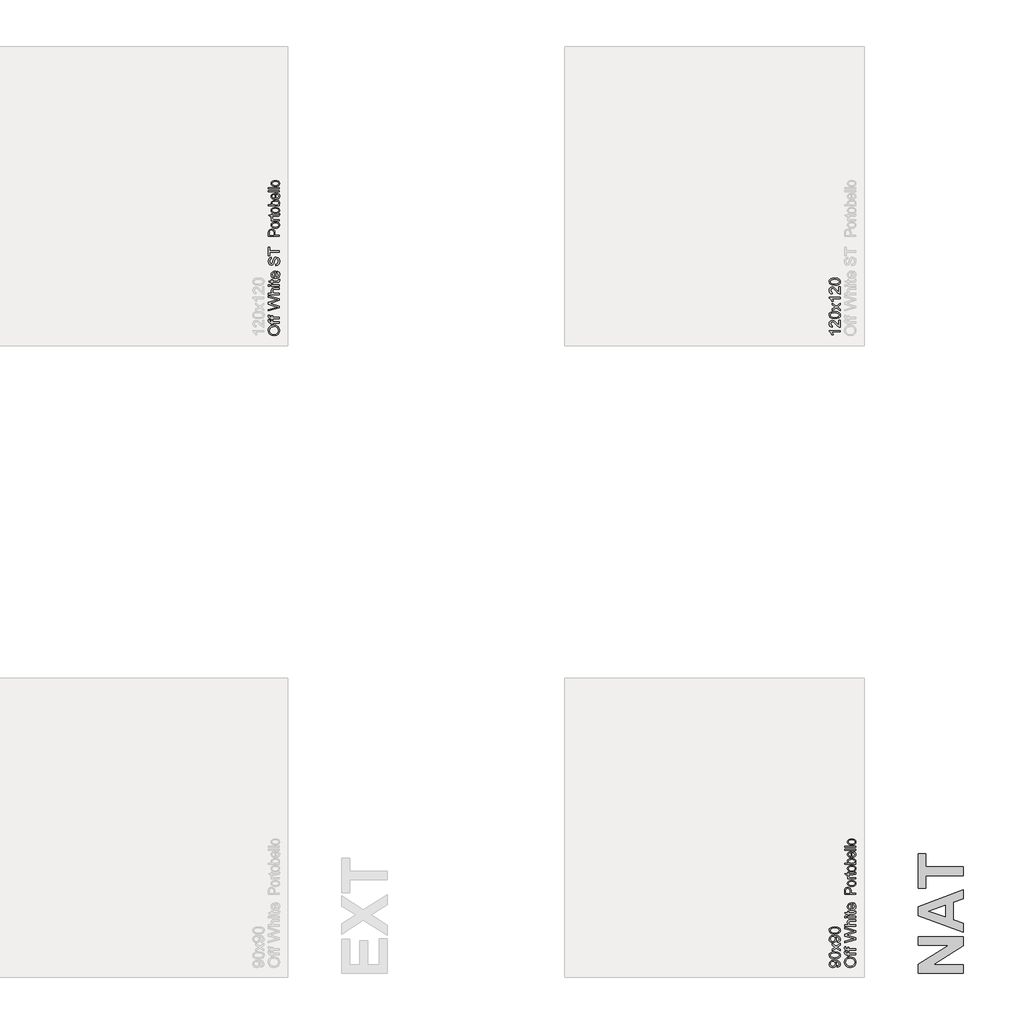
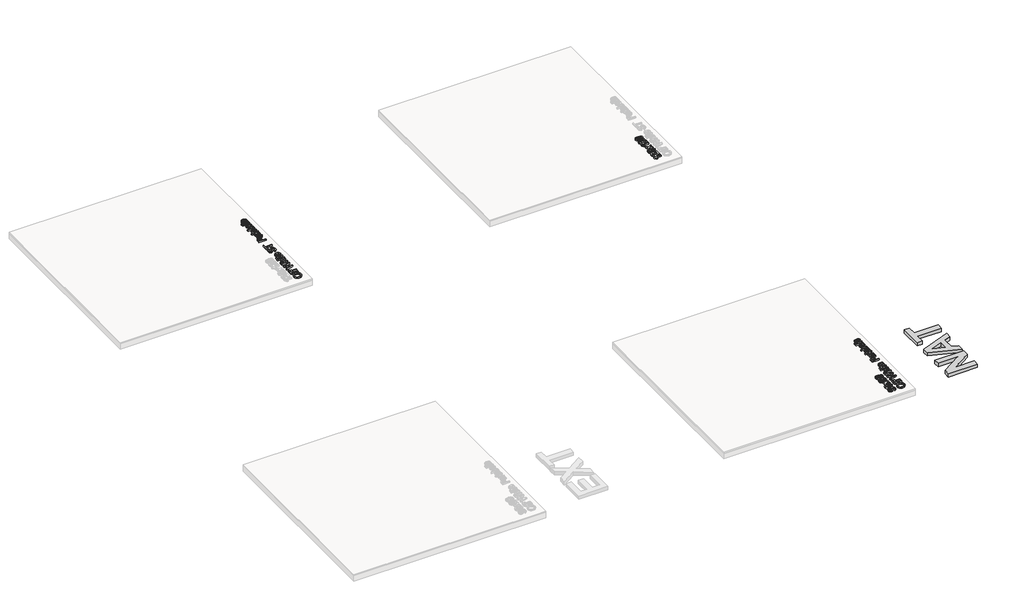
# One storey, part 6 of 19: 7 proxies.
"""IFC4 building model written with IfcOpenShell, lengths in millimetres."""

from ifc_helpers import new_model, si_unit, frame, origin, origin_with_axes, place, context, project, spatial, polyline, outline, extrude, element, save

model = new_model("IFC4")

# Units and contexts
model_context = context("Model", 3, world=origin())
ifc_project = project(units=[si_unit("LENGTHUNIT", "METRE", prefix="MILLI")], contexts=[model_context])

# Site, building, storey
site = spatial("IfcSite", under=ifc_project)
building = spatial("IfcBuilding", under=site)
storey = spatial("IfcBuildingStorey", under=building, Name="PORTOBELLO - SHOWROOM", Elevation=0.0)

# Proxies
placement = place(None, origin())
element("IfcBuildingElementProxy", 1, Name="10mm Arial", ObjectType="10mm Arial", at=placement, inside=storey, context=model_context, shape_type="SweptSolid", body=[
    extrude(outline(polyline([(11482.3367439, -7006.5341901), (11460.1228028, -7003.186464), (11443.316727, -6993.1432855), (11432.7401196, -6977.8087377), (11429.2145838, -6958.5869034), (11430.8700528, -6945.4105966), (11435.8364597, -6933.5954532), (11443.7643167, -6923.7852667), (11454.3041359, -6916.6238305), (11466.9470138, -6912.2460348), (11481.184047, -6910.7867695), (11495.6111526, -6912.3226769), (11508.4318401, -6916.9303988), (11518.9900534, -6924.3554838), (11526.6297361, -6934.34348), (11531.2650493, -6946.0574558), (11532.8101537, -6958.6604798), (11531.1025681, -6972.0391217), (11525.9798113, -6983.9217102), (11517.9048015, -6993.7073712), (11507.3404569, -7000.795231), (11482.3367439, -7006.5341901)]), holes=[polyline([(11482.4593712, -6993.9771514), (11498.1740638, -6991.4663568), (11510.1486227, -6983.9339729), (11517.7269918, -6972.6124045), (11520.2531149, -6958.7340562), (11517.7024664, -6944.6533729), (11510.0505209, -6933.3134104), (11497.7080799, -6925.8362088), (11481.0859451, -6923.3438083), (11460.3619261, -6927.6112394), (11446.6399276, -6940.0824391), (11441.7716226, -6958.513327), (11444.1168703, -6972.0207276), (11451.1526135, -6983.5047772), (11463.6697983, -6991.3590578), (11482.4593712, -6993.9771514)])]), frame((0.0, 0.0, 18.0), z_axis=(0.0, 0.0, 1.0), x_axis=(1.0, 0.0, 0.0)), (0.0, 0.0, 1.0), 20.0),
    extrude(outline(polyline([(11531.2405238, -6851.1408354), (11470.0249598, -6851.1408354), (11470.0249598, -6862.1282443), (11457.467921, -6862.1282443), (11457.467921, -6851.1408354), (11450.0367047, -6851.1408354), (11439.5643306, -6849.8164602), (11432.0840634, -6843.390788), (11429.2145838, -6830.7356474), (11430.5880099, -6819.2822546), (11442.3602338, -6821.1216646), (11441.7716226, -6828.3566771), (11443.8562872, -6836.26614), (11451.63086, -6838.5837966), (11457.467921, -6838.5837966), (11457.467921, -6824.457128), (11470.0249598, -6824.457128), (11470.0249598, -6838.5837966), (11531.2405238, -6838.5837966), (11531.2405238, -6851.1408354)])), frame((0.0, 0.0, 18.0), z_axis=(0.0, 0.0, 1.0), x_axis=(1.0, 0.0, 0.0)), (0.0, 0.0, 1.0), 20.0),
    extrude(outline(polyline([(11531.2405238, -6891.9512114), (11470.0249598, -6891.9512114), (11470.0249598, -6902.9386203), (11457.467921, -6902.9386203), (11457.467921, -6891.9512114), (11450.0367047, -6891.9512114), (11439.5643306, -6890.6268362), (11432.0840634, -6884.201164), (11429.2145838, -6871.5460234), (11430.5880099, -6860.0926306), (11442.3602338, -6861.9320406), (11441.7716226, -6869.1670531), (11443.8562872, -6877.076516), (11451.63086, -6879.3941726), (11457.467921, -6879.3941726), (11457.467921, -6865.267504), (11470.0249598, -6865.267504), (11470.0249598, -6879.3941726), (11531.2405238, -6879.3941726), (11531.2405238, -6891.9512114)])), frame((0.0, 0.0, 18.0), z_axis=(0.0, 0.0, 1.0), x_axis=(1.0, 0.0, 0.0)), (0.0, 0.0, 1.0), 20.0),
    extrude(outline(polyline([(11531.2405238, -6754.6821762), (11430.7842137, -6782.0771221), (11430.7842137, -6769.1276759), (11496.8067691, -6753.2351737), (11517.1874316, -6748.3300805), (11499.1612138, -6743.0816307), (11430.7842137, -6723.166952), (11430.7842137, -6704.5030721), (11480.3501811, -6690.033047), (11517.1874316, -6679.2663672), (11497.3953802, -6674.5084268), (11430.7842137, -6658.4932972), (11430.7842137, -6645.5193255), (11531.2405238, -6672.889746), (11531.2405238, -6686.3297015), (11453.7400502, -6710.438235), (11442.9243195, -6713.7982238), (11455.9473421, -6717.5751457), (11531.2405238, -6739.525438), (11531.2405238, -6754.6821762)])), frame((0.0, 0.0, 18.0), z_axis=(0.0, 0.0, 1.0), x_axis=(1.0, 0.0, 0.0)), (0.0, 0.0, 1.0), 20.0),
    extrude(outline(polyline([(11531.2405238, -6634.5319166), (11430.7842137, -6634.5319166), (11430.7842137, -6621.9748778), (11467.719566, -6621.9748778), (11458.8536099, -6612.1830854), (11455.8982912, -6600.1226873), (11459.12339, -6586.0205442), (11468.038397, -6577.4611564), (11484.5440359, -6574.8859825), (11531.2405238, -6574.8859825), (11531.2405238, -6587.4430212), (11485.8438856, -6587.4430212), (11472.6001338, -6591.4406722), (11468.45533, -6602.7714377), (11471.2512331, -6613.0598708), (11478.8296022, -6619.9270014), (11492.0488286, -6621.9748778), (11531.2405238, -6621.9748778), (11531.2405238, -6634.5319166)])), frame((0.0, 0.0, 18.0), z_axis=(0.0, 0.0, 1.0), x_axis=(1.0, 0.0, 0.0)), (0.0, 0.0, 1.0), 20.0),
    extrude(outline(polyline([(11443.3412524, -6557.6200542), (11430.7842137, -6557.6200542), (11430.7842137, -6545.0630154), (11443.3412524, -6545.0630154), (11443.3412524, -6557.6200542)])), frame((0.0, 0.0, 18.0), z_axis=(0.0, 0.0, 1.0), x_axis=(1.0, 0.0, 0.0)), (0.0, 0.0, 1.0), 20.0),
    extrude(outline(polyline([(11531.2405238, -6557.6200542), (11457.467921, -6557.6200542), (11457.467921, -6545.0630154), (11531.2405238, -6545.0630154), (11531.2405238, -6557.6200542)])), frame((0.0, 0.0, 18.0), z_axis=(0.0, 0.0, 1.0), x_axis=(1.0, 0.0, 0.0)), (0.0, 0.0, 1.0), 20.0),
    extrude(outline(polyline([(11520.7681497, -6499.5437499), (11531.6084058, -6497.97412), (11532.8101537, -6507.3673736), (11530.725489, -6517.8887987), (11525.25631, -6523.1372485), (11511.0070141, -6524.6578274), (11470.0249598, -6524.6578274), (11470.0249598, -6534.0756065), (11457.467921, -6534.0756065), (11457.467921, -6524.6578274), (11439.5398051, -6524.6578274), (11432.1576398, -6512.1007886), (11457.467921, -6512.1007886), (11457.467921, -6499.5437499), (11470.0249598, -6499.5437499), (11470.0249598, -6512.1007886), (11510.6391321, -6512.1007886), (11517.1138552, -6511.438601), (11519.4069863, -6509.2926227), (11520.2531149, -6505.0129288), (11520.7681497, -6499.5437499)])), frame((0.0, 0.0, 18.0), z_axis=(0.0, 0.0, 1.0), x_axis=(1.0, 0.0, 0.0)), (0.0, 0.0, 1.0), 20.0),
    extrude(outline(polyline([(11509.265706, -6435.336079), (11510.8353358, -6423.0242949), (11520.1120934, -6427.4603386), (11527.0466691, -6434.5390013), (11531.3692825, -6444.1008675), (11532.8101537, -6455.9865216), (11530.3238845, -6470.7201955), (11522.865077, -6482.0570923), (11510.9181093, -6489.2859736), (11494.9673591, -6491.6956006), (11478.4801143, -6489.2614481), (11466.1499361, -6481.9589905), (11458.4612024, -6470.7753778), (11455.8982912, -6456.6977601), (11458.4550711, -6443.0585352), (11466.1254107, -6432.1600311), (11478.4310634, -6425.0139233), (11494.8937827, -6422.6318874), (11498.278297, -6422.7054638), (11498.278297, -6479.1385619), (11507.677682, -6476.9649924), (11514.5877322, -6471.915812), (11518.8367692, -6464.6286828), (11520.2531149, -6455.741267), (11517.62889, -6443.4294829), (11509.265706, -6435.336079)]), holes=[polyline([(11485.7212583, -6479.1385619), (11485.7212583, -6435.1889262), (11474.3414419, -6440.2166468), (11469.9268579, -6447.5374985), (11468.45533, -6456.7468111), (11473.1519568, -6472.2101176), (11478.6425955, -6477.075357), (11485.7212583, -6479.1385619)])]), frame((0.0, 0.0, 18.0), z_axis=(0.0, 0.0, 1.0), x_axis=(1.0, 0.0, 0.0)), (0.0, 0.0, 1.0), 20.0),
])
element("IfcBuildingElementProxy", 2, Name="10mm Arial", ObjectType="10mm Arial", at=placement, inside=storey, context=model_context, shape_type="SweptSolid", body=[
    extrude(outline(polyline([(11366.1264463, -7004.9645603), (11364.5568164, -6992.4075215), (11376.5375067, -6986.7666643), (11380.2531149, -6976.0735609), (11377.8618819, -6965.9077551), (11371.4729979, -6959.0160991), (11360.5591654, -6954.9080835), (11345.9910384, -6953.093199), (11343.5384918, -6953.1667754), (11353.0543727, -6963.2099538), (11356.7086672, -6976.9810032), (11354.4768498, -6988.4313303), (11347.7813974, -6997.9625397), (11337.437782, -7004.3912775), (11324.2614752, -7006.5341901), (11310.6498414, -7004.2870443), (11299.9812635, -6997.5456067), (11293.0834761, -6987.4196548), (11290.7842137, -6975.0189659), (11296.0326635, -6957.1276382), (11310.9931979, -6944.8158541), (11339.0993824, -6940.6097366), (11369.5967998, -6944.8035913), (11379.5878616, -6950.0183186), (11386.8749908, -6957.274791), (11391.3263629, -6966.2603087), (11392.8101537, -6976.6621721), (11391.0596485, -6987.398195), (11385.808133, -6995.9637141), (11377.386701, -7001.9540593), (11366.1264463, -7004.9645603)]), holes=[polyline([(11323.9671696, -6953.1667754), (11315.4568328, -6954.5218074), (11308.9085333, -6958.5869034), (11304.7330726, -6964.8960797), (11303.3412524, -6972.9833522), (11304.8403716, -6981.3710617), (11309.3377289, -6988.0910394), (11316.2201879, -6992.5056234), (11324.8746119, -6993.9771514), (11332.6338563, -6992.5853312), (11338.792814, -6988.4098705), (11342.8119248, -6981.8554396), (11344.1516284, -6973.3267087), (11338.792814, -6958.8444208), (11332.4069957, -6954.5861867), (11323.9671696, -6953.1667754)])]), frame((0.0, 0.0, 18.0), z_axis=(0.0, 0.0, 1.0), x_axis=(1.0, 0.0, 0.0)), (0.0, 0.0, 1.0), 20.0),
    extrude(outline(polyline([(11341.8217091, -6929.6223277), (11312.918447, -6925.931245), (11296.2533926, -6914.9683615), (11290.7842137, -6896.6601009), (11294.0215752, -6881.993872), (11303.3535152, -6871.8648544), (11318.2159478, -6865.9787425), (11341.8217091, -6863.6978741), (11370.6023439, -6867.3521686), (11387.3041865, -6878.2782639), (11391.4336619, -6886.5096235), (11392.8101537, -6896.6601009), (11390.4189207, -6909.707649), (11383.2452218, -6919.6159374), (11366.255205, -6927.1207301), (11341.8217091, -6929.6223277)]), holes=[polyline([(11341.7971837, -6917.0652889), (11361.5493811, -6915.5937609), (11372.9813141, -6911.179177), (11378.4351647, -6904.606352), (11380.2531149, -6896.6601009), (11378.4290333, -6888.7138498), (11372.9567886, -6882.1410248), (11361.5187243, -6877.7264409), (11341.7971837, -6876.2549129), (11322.4895103, -6877.67739), (11310.9686725, -6881.9448211), (11305.2481074, -6888.5053834), (11303.3412524, -6896.8072537), (11305.0212469, -6904.6676657), (11310.0612302, -6910.9829733), (11322.2994379, -6915.54471), (11341.7971837, -6917.0652889)])]), frame((0.0, 0.0, 18.0), z_axis=(0.0, 0.0, 1.0), x_axis=(1.0, 0.0, 0.0)), (0.0, 0.0, 1.0), 20.0),
    extrude(outline(polyline([(11391.2405238, -6857.4193548), (11354.1334932, -6830.5884946), (11317.467921, -6855.8497249), (11317.467921, -6840.7910886), (11335.1507823, -6828.6019318), (11343.4649154, -6822.8874981), (11336.6468357, -6817.9333539), (11317.467921, -6804.05194), (11317.467921, -6788.9442527), (11354.1580187, -6815.4808073), (11391.2405238, -6789.9252714), (11391.2405238, -6805.0084332), (11368.9223494, -6820.410426), (11364.8265966, -6823.2063292), (11391.2405238, -6842.3116675), (11391.2405238, -6857.4193548)])), frame((0.0, 0.0, 18.0), z_axis=(0.0, 0.0, 1.0), x_axis=(1.0, 0.0, 0.0)), (0.0, 0.0, 1.0), 20.0),
    extrude(outline(polyline([(11366.1264463, -6780.5074923), (11364.5568164, -6767.9504535), (11376.5375067, -6762.3095963), (11380.2531149, -6751.6164929), (11377.8618819, -6741.4506871), (11371.4729979, -6734.5590311), (11360.5591654, -6730.4510155), (11345.9910384, -6728.636131), (11343.5384918, -6728.7097074), (11353.0543727, -6738.7528858), (11356.7086672, -6752.5239352), (11354.4768498, -6763.9742623), (11347.7813974, -6773.5054717), (11337.437782, -6779.9342095), (11324.2614752, -6782.0771221), (11310.6498414, -6779.8299763), (11299.9812635, -6773.0885387), (11293.0834761, -6762.9625868), (11290.7842137, -6750.5618979), (11296.0326635, -6732.6705702), (11310.9931979, -6720.3587861), (11339.0993824, -6716.1526686), (11369.5967998, -6720.3465234), (11379.5878616, -6725.5612506), (11386.8749908, -6732.817723), (11391.3263629, -6741.8032407), (11392.8101537, -6752.2051041), (11391.0596485, -6762.941127), (11385.808133, -6771.5066462), (11377.386701, -6777.4969913), (11366.1264463, -6780.5074923)]), holes=[polyline([(11323.9671696, -6728.7097074), (11315.4568328, -6730.0647394), (11308.9085333, -6734.1298354), (11304.7330726, -6740.4390117), (11303.3412524, -6748.5262842), (11304.8403716, -6756.9139937), (11309.3377289, -6763.6339715), (11316.2201879, -6768.0485554), (11324.8746119, -6769.5200834), (11332.6338563, -6768.1282632), (11338.792814, -6763.9528025), (11342.8119248, -6757.3983716), (11344.1516284, -6748.8696407), (11338.792814, -6734.3873528), (11332.4069957, -6730.1291187), (11323.9671696, -6728.7097074)])]), frame((0.0, 0.0, 18.0), z_axis=(0.0, 0.0, 1.0), x_axis=(1.0, 0.0, 0.0)), (0.0, 0.0, 1.0), 20.0),
    extrude(outline(polyline([(11341.8217091, -6705.1652597), (11312.918447, -6701.474177), (11296.2533926, -6690.5112935), (11290.7842137, -6672.2030329), (11294.0215752, -6657.536804), (11303.3535152, -6647.4077864), (11318.2159478, -6641.5216745), (11341.8217091, -6639.2408062), (11370.6023439, -6642.8951006), (11387.3041865, -6653.8211959), (11391.4336619, -6662.0525555), (11392.8101537, -6672.2030329), (11390.4189207, -6685.250581), (11383.2452218, -6695.1588694), (11366.255205, -6702.6636621), (11341.8217091, -6705.1652597)]), holes=[polyline([(11341.7971837, -6692.6082209), (11361.5493811, -6691.1366929), (11372.9813141, -6686.722109), (11378.4351647, -6680.149284), (11380.2531149, -6672.2030329), (11378.4290333, -6664.2567818), (11372.9567886, -6657.6839568), (11361.5187243, -6653.2693729), (11341.7971837, -6651.7978449), (11322.4895103, -6653.220322), (11310.9686725, -6657.4877531), (11305.2481074, -6664.0483154), (11303.3412524, -6672.3501857), (11305.0212469, -6680.2105977), (11310.0612302, -6686.5259053), (11322.2994379, -6691.087642), (11341.7971837, -6692.6082209)])]), frame((0.0, 0.0, 18.0), z_axis=(0.0, 0.0, 1.0), x_axis=(1.0, 0.0, 0.0)), (0.0, 0.0, 1.0), 20.0),
])
element("IfcBuildingElementProxy", 3, Name="10mm Arial", ObjectType="10mm Arial", at=placement, inside=storey, context=model_context, shape_type="SweptSolid", body=[
    extrude(outline(polyline([(11391.2405238, -1259.4452948), (11391.2405238, -1272.0023335), (11312.9552352, -1272.0023335), (11321.4287839, -1283.8971847), (11327.7686169, -1297.1164111), (11315.8982912, -1297.1164111), (11304.1505928, -1278.7100486), (11290.7842137, -1267.5386987), (11290.7842137, -1259.4452948), (11391.2405238, -1259.4452948)])), frame((0.0, 0.0, 17.0), z_axis=(0.0, 0.0, 1.0), x_axis=(1.0, 0.0, 0.0)), (0.0, 0.0, 1.0), 20.0),
    extrude(outline(polyline([(11378.683485, -1165.267504), (11391.2405238, -1165.267504), (11391.2405238, -1231.1919575), (11382.5830342, -1229.8430569), (11369.2534432, -1222.2033741), (11354.6975789, -1206.4702875), (11333.7773562, -1184.8020379), (11319.5525857, -1179.3941726), (11308.0378792, -1184.5077323), (11303.3412524, -1197.8618488), (11307.9275146, -1211.7800509), (11320.6071807, -1217.0652889), (11319.0375509, -1229.6223277), (11306.8913137, -1226.5781042), (11298.0192262, -1219.9960821), (11292.5929668, -1210.2196181), (11290.7842137, -1197.5920686), (11292.7953019, -1184.8725487), (11298.8285666, -1175.1144787), (11307.8416755, -1168.9064701), (11318.7922962, -1166.8371338), (11330.6994101, -1169.0689513), (11343.0111942, -1176.4879048), (11360.2158089, -1194.4773344), (11372.2946011, -1208.9228341), (11378.683485, -1214.5882168), (11378.683485, -1165.267504)])), frame((0.0, 0.0, 17.0), z_axis=(0.0, 0.0, 1.0), x_axis=(1.0, 0.0, 0.0)), (0.0, 0.0, 1.0), 20.0),
    extrude(outline(polyline([(11341.8217091, -1152.7104652), (11312.918447, -1149.0193825), (11296.2533926, -1138.0564991), (11290.7842137, -1119.7482385), (11294.0215752, -1105.0820096), (11303.3535152, -1094.952992), (11318.2159478, -1089.0668801), (11341.8217091, -1086.7860117), (11370.6023439, -1090.4403062), (11387.3041865, -1101.3664014), (11391.4336619, -1109.5977611), (11392.8101537, -1119.7482385), (11390.4189207, -1132.7957866), (11383.2452218, -1142.704075), (11366.255205, -1150.2088677), (11341.8217091, -1152.7104652)]), holes=[polyline([(11341.7971837, -1140.1534265), (11361.5493811, -1138.6818985), (11372.9813141, -1134.2673145), (11378.4351647, -1127.6944896), (11380.2531149, -1119.7482385), (11378.4290333, -1111.8019874), (11372.9567886, -1105.2291624), (11361.5187243, -1100.8145784), (11341.7971837, -1099.3430505), (11322.4895103, -1100.7655275), (11310.9686725, -1105.0329586), (11305.2481074, -1111.5935209), (11303.3412524, -1119.8953913), (11305.0212469, -1127.7558032), (11310.0612302, -1134.0711108), (11322.2994379, -1138.6328475), (11341.7971837, -1140.1534265)])]), frame((0.0, 0.0, 17.0), z_axis=(0.0, 0.0, 1.0), x_axis=(1.0, 0.0, 0.0)), (0.0, 0.0, 1.0), 20.0),
    extrude(outline(polyline([(11391.2405238, -1080.5074923), (11354.1334932, -1053.6766321), (11317.467921, -1078.9378625), (11317.467921, -1063.8792261), (11335.1507823, -1051.6900693), (11343.4649154, -1045.9756357), (11336.6468357, -1041.0214915), (11317.467921, -1027.1400775), (11317.467921, -1012.0323903), (11354.1580187, -1038.5689449), (11391.2405238, -1013.0134089), (11391.2405238, -1028.0965707), (11368.9223494, -1043.4985636), (11364.8265966, -1046.2944668), (11391.2405238, -1065.399805), (11391.2405238, -1080.5074923)])), frame((0.0, 0.0, 17.0), z_axis=(0.0, 0.0, 1.0), x_axis=(1.0, 0.0, 0.0)), (0.0, 0.0, 1.0), 20.0),
    extrude(outline(polyline([(11391.2405238, -958.0763643), (11391.2405238, -970.6334031), (11312.9552352, -970.6334031), (11321.4287839, -982.5282543), (11327.7686169, -995.7474806), (11315.8982912, -995.7474806), (11304.1505928, -977.3411181), (11290.7842137, -966.1697682), (11290.7842137, -958.0763643), (11391.2405238, -958.0763643)])), frame((0.0, 0.0, 17.0), z_axis=(0.0, 0.0, 1.0), x_axis=(1.0, 0.0, 0.0)), (0.0, 0.0, 1.0), 20.0),
    extrude(outline(polyline([(11378.683485, -863.8985735), (11391.2405238, -863.8985735), (11391.2405238, -929.8230271), (11382.5830342, -928.4741264), (11369.2534432, -920.8344437), (11354.6975789, -905.101357), (11333.7773562, -883.4331075), (11319.5525857, -878.0252422), (11308.0378792, -883.1388019), (11303.3412524, -896.4929183), (11307.9275146, -910.4111205), (11320.6071807, -915.6963585), (11319.0375509, -928.2533972), (11306.8913137, -925.2091737), (11298.0192262, -918.6271517), (11292.5929668, -908.8506877), (11290.7842137, -896.2231382), (11292.7953019, -883.5036182), (11298.8285666, -873.7455483), (11307.8416755, -867.5375396), (11318.7922962, -865.4682034), (11330.6994101, -867.7000208), (11343.0111942, -875.1189744), (11360.2158089, -893.108404), (11372.2946011, -907.5539036), (11378.683485, -913.2192864), (11378.683485, -863.8985735)])), frame((0.0, 0.0, 17.0), z_axis=(0.0, 0.0, 1.0), x_axis=(1.0, 0.0, 0.0)), (0.0, 0.0, 1.0), 20.0),
    extrude(outline(polyline([(11341.8217091, -851.3415348), (11312.918447, -847.6504521), (11296.2533926, -836.6875686), (11290.7842137, -818.379308), (11294.0215752, -803.7130791), (11303.3535152, -793.5840615), (11318.2159478, -787.6979496), (11341.8217091, -785.4170812), (11370.6023439, -789.0713757), (11387.3041865, -799.997471), (11391.4336619, -808.2288306), (11392.8101537, -818.379308), (11390.4189207, -831.4268561), (11383.2452218, -841.3351445), (11366.255205, -848.8399372), (11341.8217091, -851.3415348)]), holes=[polyline([(11341.7971837, -838.784496), (11361.5493811, -837.312968), (11372.9813141, -832.8983841), (11378.4351647, -826.3255591), (11380.2531149, -818.379308), (11378.4290333, -810.4330569), (11372.9567886, -803.8602319), (11361.5187243, -799.445648), (11341.7971837, -797.97412), (11322.4895103, -799.3965971), (11310.9686725, -803.6640282), (11305.2481074, -810.2245904), (11303.3412524, -818.5264608), (11305.0212469, -826.3868728), (11310.0612302, -832.7021804), (11322.2994379, -837.2639171), (11341.7971837, -838.784496)])]), frame((0.0, 0.0, 17.0), z_axis=(0.0, 0.0, 1.0), x_axis=(1.0, 0.0, 0.0)), (0.0, 0.0, 1.0), 20.0),
])
element("IfcBuildingElementProxy", 4, Name="10mm Arial", ObjectType="10mm Arial", at=placement, inside=storey, context=model_context, shape_type="SweptSolid", body=[
    extrude(outline(polyline([(6282.3367439, -1306.5341901), (6260.1228028, -1303.186464), (6243.316727, -1293.1432855), (6232.7401196, -1277.8087377), (6229.2145838, -1258.5869034), (6230.8700528, -1245.4105966), (6235.8364597, -1233.5954532), (6243.7643167, -1223.7852667), (6254.3041359, -1216.6238305), (6266.9470138, -1212.2460348), (6281.184047, -1210.7867695), (6295.6111526, -1212.3226769), (6308.4318401, -1216.9303988), (6318.9900534, -1224.3554838), (6326.6297361, -1234.34348), (6331.2650493, -1246.0574558), (6332.8101537, -1258.6604798), (6331.1025681, -1272.0391217), (6325.9798113, -1283.9217102), (6317.9048015, -1293.7073712), (6307.3404569, -1300.795231), (6282.3367439, -1306.5341901)]), holes=[polyline([(6282.4593712, -1293.9771514), (6298.1740638, -1291.4663568), (6310.1486227, -1283.9339729), (6317.7269918, -1272.6124045), (6320.2531149, -1258.7340562), (6317.7024664, -1244.6533729), (6310.0505209, -1233.3134104), (6297.7080799, -1225.8362088), (6281.0859451, -1223.3438083), (6260.3619261, -1227.6112394), (6246.6399276, -1240.0824391), (6241.7716226, -1258.513327), (6244.1168703, -1272.0207276), (6251.1526135, -1283.5047772), (6263.6697983, -1291.3590578), (6282.4593712, -1293.9771514)])]), frame((0.0, 0.0, 17.0), z_axis=(0.0, 0.0, 1.0), x_axis=(1.0, 0.0, 0.0)), (0.0, 0.0, 1.0), 20.0),
    extrude(outline(polyline([(6331.2405238, -1151.1408354), (6270.0249598, -1151.1408354), (6270.0249598, -1162.1282443), (6257.467921, -1162.1282443), (6257.467921, -1151.1408354), (6250.0367047, -1151.1408354), (6239.5643306, -1149.8164602), (6232.0840634, -1143.390788), (6229.2145838, -1130.7356474), (6230.5880099, -1119.2822546), (6242.3602338, -1121.1216646), (6241.7716226, -1128.3566771), (6243.8562872, -1136.26614), (6251.63086, -1138.5837966), (6257.467921, -1138.5837966), (6257.467921, -1124.457128), (6270.0249598, -1124.457128), (6270.0249598, -1138.5837966), (6331.2405238, -1138.5837966), (6331.2405238, -1151.1408354)])), frame((0.0, 0.0, 17.0), z_axis=(0.0, 0.0, 1.0), x_axis=(1.0, 0.0, 0.0)), (0.0, 0.0, 1.0), 20.0),
    extrude(outline(polyline([(6331.2405238, -1191.9512114), (6270.0249598, -1191.9512114), (6270.0249598, -1202.9386203), (6257.467921, -1202.9386203), (6257.467921, -1191.9512114), (6250.0367047, -1191.9512114), (6239.5643306, -1190.6268362), (6232.0840634, -1184.201164), (6229.2145838, -1171.5460234), (6230.5880099, -1160.0926306), (6242.3602338, -1161.9320406), (6241.7716226, -1169.1670531), (6243.8562872, -1177.076516), (6251.63086, -1179.3941726), (6257.467921, -1179.3941726), (6257.467921, -1165.267504), (6270.0249598, -1165.267504), (6270.0249598, -1179.3941726), (6331.2405238, -1179.3941726), (6331.2405238, -1191.9512114)])), frame((0.0, 0.0, 17.0), z_axis=(0.0, 0.0, 1.0), x_axis=(1.0, 0.0, 0.0)), (0.0, 0.0, 1.0), 20.0),
    extrude(outline(polyline([(6331.2405238, -1054.6821762), (6230.7842137, -1082.0771221), (6230.7842137, -1069.1276759), (6296.8067691, -1053.2351737), (6317.1874316, -1048.3300805), (6299.1612138, -1043.0816307), (6230.7842137, -1023.166952), (6230.7842137, -1004.5030721), (6280.3501811, -990.033047), (6317.1874316, -979.2663672), (6297.3953802, -974.5084268), (6230.7842137, -958.4932972), (6230.7842137, -945.5193255), (6331.2405238, -972.889746), (6331.2405238, -986.3297015), (6253.7400502, -1010.438235), (6242.9243195, -1013.7982238), (6255.9473421, -1017.5751457), (6331.2405238, -1039.525438), (6331.2405238, -1054.6821762)])), frame((0.0, 0.0, 17.0), z_axis=(0.0, 0.0, 1.0), x_axis=(1.0, 0.0, 0.0)), (0.0, 0.0, 1.0), 20.0),
    extrude(outline(polyline([(6331.2405238, -934.5319166), (6230.7842137, -934.5319166), (6230.7842137, -921.9748778), (6267.719566, -921.9748778), (6258.8536099, -912.1830854), (6255.8982912, -900.1226873), (6259.12339, -886.0205442), (6268.038397, -877.4611564), (6284.5440359, -874.8859825), (6331.2405238, -874.8859825), (6331.2405238, -887.4430212), (6285.8438856, -887.4430212), (6272.6001338, -891.4406722), (6268.45533, -902.7714377), (6271.2512331, -913.0598708), (6278.8296022, -919.9270014), (6292.0488286, -921.9748778), (6331.2405238, -921.9748778), (6331.2405238, -934.5319166)])), frame((0.0, 0.0, 17.0), z_axis=(0.0, 0.0, 1.0), x_axis=(1.0, 0.0, 0.0)), (0.0, 0.0, 1.0), 20.0),
    extrude(outline(polyline([(6243.3412524, -857.6200542), (6230.7842137, -857.6200542), (6230.7842137, -845.0630154), (6243.3412524, -845.0630154), (6243.3412524, -857.6200542)])), frame((0.0, 0.0, 17.0), z_axis=(0.0, 0.0, 1.0), x_axis=(1.0, 0.0, 0.0)), (0.0, 0.0, 1.0), 20.0),
    extrude(outline(polyline([(6331.2405238, -857.6200542), (6257.467921, -857.6200542), (6257.467921, -845.0630154), (6331.2405238, -845.0630154), (6331.2405238, -857.6200542)])), frame((0.0, 0.0, 17.0), z_axis=(0.0, 0.0, 1.0), x_axis=(1.0, 0.0, 0.0)), (0.0, 0.0, 1.0), 20.0),
    extrude(outline(polyline([(6320.7681497, -799.5437499), (6331.6084058, -797.97412), (6332.8101537, -807.3673736), (6330.725489, -817.8887987), (6325.25631, -823.1372485), (6311.0070141, -824.6578274), (6270.0249598, -824.6578274), (6270.0249598, -834.0756065), (6257.467921, -834.0756065), (6257.467921, -824.6578274), (6239.5398051, -824.6578274), (6232.1576398, -812.1007886), (6257.467921, -812.1007886), (6257.467921, -799.5437499), (6270.0249598, -799.5437499), (6270.0249598, -812.1007886), (6310.6391321, -812.1007886), (6317.1138552, -811.438601), (6319.4069863, -809.2926227), (6320.2531149, -805.0129288), (6320.7681497, -799.5437499)])), frame((0.0, 0.0, 17.0), z_axis=(0.0, 0.0, 1.0), x_axis=(1.0, 0.0, 0.0)), (0.0, 0.0, 1.0), 20.0),
    extrude(outline(polyline([(6309.265706, -735.336079), (6310.8353358, -723.0242949), (6320.1120934, -727.4603386), (6327.0466691, -734.5390013), (6331.3692825, -744.1008675), (6332.8101537, -755.9865216), (6330.3238845, -770.7201955), (6322.865077, -782.0570923), (6310.9181093, -789.2859736), (6294.9673591, -791.6956006), (6278.4801143, -789.2614481), (6266.1499361, -781.9589905), (6258.4612024, -770.7753778), (6255.8982912, -756.6977601), (6258.4550711, -743.0585352), (6266.1254107, -732.1600311), (6278.4310634, -725.0139233), (6294.8937827, -722.6318874), (6298.278297, -722.7054638), (6298.278297, -779.1385619), (6307.677682, -776.9649924), (6314.5877322, -771.915812), (6318.8367692, -764.6286828), (6320.2531149, -755.741267), (6317.62889, -743.4294829), (6309.265706, -735.336079)]), holes=[polyline([(6285.7212583, -779.1385619), (6285.7212583, -735.1889262), (6274.3414419, -740.2166468), (6269.9268579, -747.5374985), (6268.45533, -756.7468111), (6273.1519568, -772.2101176), (6278.6425955, -777.075357), (6285.7212583, -779.1385619)])]), frame((0.0, 0.0, 17.0), z_axis=(0.0, 0.0, 1.0), x_axis=(1.0, 0.0, 0.0)), (0.0, 0.0, 1.0), 20.0),
    extrude(outline(polyline([(6296.7086672, -673.9733622), (6296.7086672, -661.4163234), (6309.2779687, -657.3696215), (6317.2242198, -647.4858585), (6320.2531149, -632.4272222), (6317.9599838, -619.3060977), (6311.6569389, -610.8325491), (6303.2324412, -608.0489086), (6295.3965547, -610.1335733), (6289.6943838, -618.6684356), (6284.8996551, -636.9521707), (6278.7069749, -656.6338575), (6269.3627722, -667.3146981), (6256.8793098, -670.8341025), (6242.6668021, -666.4808322), (6232.6358864, -653.7643779), (6229.2145838, -635.1495489), (6232.7953019, -615.2839212), (6243.316727, -602.0401694), (6259.0375509, -597.0614997), (6259.0375509, -609.6185385), (6251.5450209, -611.9239323), (6246.1371556, -616.7309237), (6241.7716226, -634.6590396), (6246.0881047, -652.6362064), (6256.5114279, -658.2770637), (6265.2179684, -654.2794127), (6272.2322518, -633.7761228), (6278.5352966, -611.5560503), (6288.7133652, -599.4036817), (6302.9136102, -595.4918699), (6317.9354583, -599.9922929), (6328.8983418, -612.9417392), (6332.8101537, -631.9367129), (6328.5917734, -654.3652518), (6315.8875819, -668.5532341), (6296.7086672, -673.9733622)])), frame((0.0, 0.0, 17.0), z_axis=(0.0, 0.0, 1.0), x_axis=(1.0, 0.0, 0.0)), (0.0, 0.0, 1.0), 20.0),
    extrude(outline(polyline([(6331.2405238, -551.5422342), (6243.3412524, -551.5422342), (6243.3412524, -584.5044609), (6230.7842137, -584.5044609), (6230.7842137, -506.0229686), (6243.3412524, -506.0229686), (6243.3412524, -538.9851954), (6331.2405238, -538.9851954), (6331.2405238, -551.5422342)])), frame((0.0, 0.0, 17.0), z_axis=(0.0, 0.0, 1.0), x_axis=(1.0, 0.0, 0.0)), (0.0, 0.0, 1.0), 20.0),
])
element("IfcBuildingElementProxy", 5, Name="10mm Arial Narrow", ObjectType="10mm Arial Narrow", at=placement, inside=storey, context=model_context, shape_type="SweptSolid", body=[
    extrude(outline(polyline([(11531.2405238, -6347.1065049), (11430.5219201, -6347.1065049), (11430.5219201, -6315.8096202), (11432.4002408, -6299.5139187), (11441.880684, -6288.0409326), (11458.8997928, -6283.7512541), (11470.9756183, -6285.5375625), (11480.6020121, -6290.8964877), (11486.9032705, -6300.6402765), (11489.00369, -6315.5811758), (11489.00369, -6337.3595432), (11531.2405238, -6337.3595432), (11531.2405238, -6347.1065049)]), holes=[polyline([(11477.6322347, -6337.3595432), (11477.6322347, -6314.3881883), (11473.1014205, -6298.5239929), (11459.4328297, -6293.4982158), (11449.2670533, -6295.9730303), (11443.4671035, -6301.9506591), (11441.8933753, -6314.6166327), (11441.8933753, -6337.3595432), (11477.6322347, -6337.3595432)])]), frame((0.0, 0.0, 18.0), z_axis=(0.0, 0.0, 1.0), x_axis=(1.0, 0.0, 0.0)), (0.0, 0.0, 1.0), 20.0),
    extrude(outline(polyline([(11494.6894176, -6275.6287861), (11478.0986421, -6273.6743172), (11466.1465572, -6267.8109106), (11458.9220027, -6258.9523439), (11456.5138178, -6248.0123947), (11458.9220027, -6237.1993591), (11466.1465572, -6228.3154097), (11477.9082717, -6222.375855), (11493.9279362, -6220.3960034), (11511.0898228, -6222.3409537), (11523.232278, -6228.1758048), (11530.4568326, -6237.024853), (11532.8650174, -6248.0123947), (11530.4504869, -6258.8730229), (11523.2068953, -6267.7474538), (11511.2484648, -6273.658453), (11494.6894176, -6275.6287861)]), holes=[polyline([(11494.6640349, -6265.8818244), (11507.2157863, -6264.5777876), (11516.0870444, -6260.665677), (11521.3603029, -6254.8244802), (11523.1180558, -6247.7331849), (11521.3444387, -6241.0131117), (11516.0235876, -6235.3210384), (11507.1364653, -6231.4374834), (11494.6640349, -6230.142965), (11482.1503576, -6231.4470019), (11473.2917908, -6235.3591125), (11468.0185323, -6241.2003092), (11466.2607794, -6248.2916046), (11468.0280508, -6255.0592703), (11473.3298649, -6260.7418251), (11482.1979501, -6264.5968246), (11494.6640349, -6265.8818244)])]), frame((0.0, 0.0, 18.0), z_axis=(0.0, 0.0, 1.0), x_axis=(1.0, 0.0, 0.0)), (0.0, 0.0, 1.0), 20.0),
    extrude(outline(polyline([(11523.1180558, -6148.9182846), (11532.8650174, -6147.293791), (11532.8650174, -6154.6547776), (11530.7455609, -6162.929542), (11524.9456111, -6167.2446031), (11510.2997859, -6168.4122079), (11467.8852731, -6168.4122079), (11467.8852731, -6176.5346759), (11464.6362858, -6176.5346759), (11469.5097667, -6178.1591695), (11467.8852731, -6185.7232179), (11470.2077913, -6191.8023776), (11476.6930743, -6195.6732413), (11492.1003809, -6197.6530929), (11531.2405238, -6197.6530929), (11531.2405238, -6207.4000545), (11458.1383114, -6207.4000545), (11458.1383114, -6197.6530929), (11467.8345076, -6197.6530929), (11458.7474965, -6191.4089455), (11456.5138178, -6185.012502), (11458.1383114, -6176.5346759), (11458.1383114, -6168.4122079), (11441.8933753, -6168.4122079), (11433.7709073, -6158.6652462), (11458.1383114, -6158.6652462), (11458.1383114, -6148.9182846), (11467.8852731, -6148.9182846), (11467.8852731, -6158.6652462), (11512.5334646, -6158.6652462), (11520.5290191, -6157.802234), (11523.1180558, -6153.1825803), (11523.1180558, -6148.9182846)])), frame((0.0, 0.0, 18.0), z_axis=(0.0, 0.0, 1.0), x_axis=(1.0, 0.0, 0.0)), (0.0, 0.0, 1.0), 20.0),
    extrude(outline(polyline([(11494.6894176, -6142.4203101), (11478.0986421, -6140.4658413), (11466.1465572, -6134.6024347), (11458.9220027, -6125.7438679), (11456.5138178, -6114.8039188), (11458.9220027, -6103.9908832), (11466.1465572, -6095.1069338), (11477.9082717, -6089.167379), (11493.9279362, -6087.1875274), (11511.0898228, -6089.1324778), (11523.232278, -6094.9673289), (11530.4568326, -6103.8163771), (11532.8650174, -6114.8039188), (11530.4504869, -6125.664547), (11523.2068953, -6134.5389779), (11511.2484648, -6140.4499771), (11494.6894176, -6142.4203101)]), holes=[polyline([(11494.6640349, -6132.6733485), (11507.2157863, -6131.3693116), (11516.0870444, -6127.457201), (11521.3603029, -6121.6160043), (11523.1180558, -6114.524709), (11521.3444387, -6107.8046358), (11516.0235876, -6102.1125625), (11507.1364653, -6098.2290074), (11494.6640349, -6096.9344891), (11482.1503576, -6098.238526), (11473.2917908, -6102.1506365), (11468.0185323, -6107.9918333), (11466.2607794, -6115.0831286), (11468.0280508, -6121.8507944), (11473.3298649, -6127.5333492), (11482.1979501, -6131.3883487), (11494.6640349, -6132.6733485)])]), frame((0.0, 0.0, 18.0), z_axis=(0.0, 0.0, 1.0), x_axis=(1.0, 0.0, 0.0)), (0.0, 0.0, 1.0), 20.0),
    extrude(outline(polyline([(11531.2405238, -6064.4446169), (11531.2405238, -6074.1915786), (11430.5219201, -6074.1915786), (11430.5219201, -6064.4446169), (11465.9308042, -6064.4446169), (11458.8490274, -6057.0455562), (11456.5138178, -6047.8443229), (11460.7146567, -6034.9625962), (11473.4440871, -6025.6852147), (11494.1309979, -6022.2077831), (11510.5853414, -6024.1400421), (11522.7880805, -6029.9368191), (11530.3457832, -6038.3099414), (11532.8650174, -6047.9712364), (11530.250598, -6057.3120747), (11522.4834879, -6064.4446169), (11531.2405238, -6064.4446169)]), holes=[polyline([(11494.1309979, -6064.4446169), (11511.3785512, -6062.3632345), (11520.1102043, -6056.4744452), (11523.1180558, -6048.0220018), (11521.3285745, -6042.0792742), (11515.9601308, -6036.8409169), (11494.5371213, -6031.9547447), (11473.1014205, -6036.6632379), (11467.9709397, -6041.9079409), (11466.2607794, -6048.2250635), (11468.0502607, -6054.2026924), (11473.4187044, -6059.494988), (11494.1309979, -6064.4446169)])]), frame((0.0, 0.0, 18.0), z_axis=(0.0, 0.0, 1.0), x_axis=(1.0, 0.0, 0.0)), (0.0, 0.0, 1.0), 20.0),
    extrude(outline(polyline([(11508.4976133, -5970.2239876), (11510.1221069, -5960.477026), (11520.0086735, -5964.1765563), (11527.1285244, -5969.9955432), (11531.4308941, -5977.6991965), (11532.8650174, -5987.0527261), (11530.4504869, -5998.6462801), (11523.2068953, -6007.7904023), (11511.400761, -6013.7299571), (11495.2986027, -6015.7098087), (11478.631679, -6013.7204386), (11466.4511498, -6007.7523282), (11458.9981508, -5998.7382924), (11456.5138178, -5987.6111458), (11458.9124841, -5976.9281966), (11466.1084832, -5968.1806792), (11477.8479878, -5962.3458282), (11493.8771708, -5960.4008778), (11497.126158, -5960.477026), (11497.126158, -6005.962847), (11516.5693159, -5999.9598355), (11521.4808708, -5994.0297992), (11523.1180558, -5986.9258125), (11519.4629451, -5976.7473448), (11508.4976133, -5970.2239876)]), holes=[polyline([(11487.3791964, -6005.3028965), (11487.3791964, -5970.2239876), (11473.1141119, -5974.4882833), (11467.9741126, -5980.3136159), (11466.2607794, -5987.5349976), (11471.9718898, -5999.7440824), (11487.3791964, -6005.3028965)])]), frame((0.0, 0.0, 18.0), z_axis=(0.0, 0.0, 1.0), x_axis=(1.0, 0.0, 0.0)), (0.0, 0.0, 1.0), 20.0),
    extrude(outline(polyline([(11531.2405238, -5947.4810771), (11430.5219201, -5947.4810771), (11430.5219201, -5937.7341154), (11531.2405238, -5937.7341154), (11531.2405238, -5947.4810771)])), frame((0.0, 0.0, 18.0), z_axis=(0.0, 0.0, 1.0), x_axis=(1.0, 0.0, 0.0)), (0.0, 0.0, 1.0), 20.0),
    extrude(outline(polyline([(11531.2405238, -5921.4891793), (11430.5219201, -5921.4891793), (11430.5219201, -5911.7422177), (11531.2405238, -5911.7422177), (11531.2405238, -5921.4891793)])), frame((0.0, 0.0, 18.0), z_axis=(0.0, 0.0, 1.0), x_axis=(1.0, 0.0, 0.0)), (0.0, 0.0, 1.0), 20.0),
    extrude(outline(polyline([(11494.6894176, -5900.3707624), (11478.0986421, -5898.4162935), (11466.1465572, -5892.5528869), (11458.9220027, -5883.6943202), (11456.5138178, -5872.7543711), (11458.9220027, -5861.9413355), (11466.1465572, -5853.0573861), (11477.9082717, -5847.1178313), (11493.9279362, -5845.1379797), (11511.0898228, -5847.0829301), (11523.232278, -5852.9177811), (11530.4568326, -5861.7668293), (11532.8650174, -5872.7543711), (11530.4504869, -5883.6149992), (11523.2068953, -5892.4894301), (11511.2484648, -5898.4004294), (11494.6894176, -5900.3707624)]), holes=[polyline([(11494.6640349, -5890.6238008), (11507.2157863, -5889.3197639), (11516.0870444, -5885.4076533), (11521.3603029, -5879.5664566), (11523.1180558, -5872.4751612), (11521.3444387, -5865.7550881), (11516.0235876, -5860.0630147), (11507.1364653, -5856.1794597), (11494.6640349, -5854.8849414), (11482.1503576, -5856.1889782), (11473.2917908, -5860.1010888), (11468.0185323, -5865.9422856), (11466.2607794, -5873.0335809), (11468.0280508, -5879.8012467), (11473.3298649, -5885.4838015), (11482.1979501, -5889.3388009), (11494.6640349, -5890.6238008)])]), frame((0.0, 0.0, 18.0), z_axis=(0.0, 0.0, 1.0), x_axis=(1.0, 0.0, 0.0)), (0.0, 0.0, 1.0), 20.0),
])
element("IfcBuildingElementProxy", 6, Name="10mm Arial Narrow", ObjectType="10mm Arial Narrow", at=placement, inside=storey, context=model_context, shape_type="SweptSolid", body=[
    extrude(outline(polyline([(6331.2405238, -407.1065049), (6230.5219201, -407.1065049), (6230.5219201, -375.8096202), (6232.4002408, -359.5139187), (6241.880684, -348.0409326), (6258.8997928, -343.7512541), (6270.9756183, -345.5375625), (6280.6020121, -350.8964877), (6286.9032705, -360.6402765), (6289.00369, -375.5811758), (6289.00369, -397.3595432), (6331.2405238, -397.3595432), (6331.2405238, -407.1065049)]), holes=[polyline([(6277.6322347, -397.3595432), (6277.6322347, -374.3881883), (6273.1014205, -358.5239929), (6259.4328297, -353.4982158), (6249.2670533, -355.9730303), (6243.4671035, -361.9506591), (6241.8933753, -374.6166327), (6241.8933753, -397.3595432), (6277.6322347, -397.3595432)])]), frame((0.0, 0.0, 17.0), z_axis=(0.0, 0.0, 1.0), x_axis=(1.0, 0.0, 0.0)), (0.0, 0.0, 1.0), 20.0),
    extrude(outline(polyline([(6294.6894176, -335.6287861), (6278.0986421, -333.6743172), (6266.1465572, -327.8109106), (6258.9220027, -318.9523439), (6256.5138178, -308.0123947), (6258.9220027, -297.1993591), (6266.1465572, -288.3154097), (6277.9082717, -282.375855), (6293.9279362, -280.3960034), (6311.0898228, -282.3409537), (6323.232278, -288.1758048), (6330.4568326, -297.024853), (6332.8650174, -308.0123947), (6330.4504869, -318.8730229), (6323.2068953, -327.7474538), (6311.2484648, -333.658453), (6294.6894176, -335.6287861)]), holes=[polyline([(6294.6640349, -325.8818244), (6307.2157863, -324.5777876), (6316.0870444, -320.665677), (6321.3603029, -314.8244802), (6323.1180558, -307.7331849), (6321.3444387, -301.0131117), (6316.0235876, -295.3210384), (6307.1364653, -291.4374834), (6294.6640349, -290.142965), (6282.1503576, -291.4470019), (6273.2917908, -295.3591125), (6268.0185323, -301.2003092), (6266.2607794, -308.2916046), (6268.0280508, -315.0592703), (6273.3298649, -320.7418251), (6282.1979501, -324.5968246), (6294.6640349, -325.8818244)])]), frame((0.0, 0.0, 17.0), z_axis=(0.0, 0.0, 1.0), x_axis=(1.0, 0.0, 0.0)), (0.0, 0.0, 1.0), 20.0),
    extrude(outline(polyline([(6323.1180558, -208.9182846), (6332.8650174, -207.293791), (6332.8650174, -214.6547776), (6330.7455609, -222.929542), (6324.9456111, -227.2446031), (6310.2997859, -228.4122079), (6267.8852731, -228.4122079), (6267.8852731, -236.5346759), (6264.6362858, -236.5346759), (6269.5097667, -238.1591695), (6267.8852731, -245.7232179), (6270.2077913, -251.8023776), (6276.6930743, -255.6732413), (6292.1003809, -257.6530929), (6331.2405238, -257.6530929), (6331.2405238, -267.4000545), (6258.1383114, -267.4000545), (6258.1383114, -257.6530929), (6267.8345076, -257.6530929), (6258.7474965, -251.4089455), (6256.5138178, -245.012502), (6258.1383114, -236.5346759), (6258.1383114, -228.4122079), (6241.8933753, -228.4122079), (6233.7709073, -218.6652462), (6258.1383114, -218.6652462), (6258.1383114, -208.9182846), (6267.8852731, -208.9182846), (6267.8852731, -218.6652462), (6312.5334646, -218.6652462), (6320.5290191, -217.802234), (6323.1180558, -213.1825803), (6323.1180558, -208.9182846)])), frame((0.0, 0.0, 17.0), z_axis=(0.0, 0.0, 1.0), x_axis=(1.0, 0.0, 0.0)), (0.0, 0.0, 1.0), 20.0),
    extrude(outline(polyline([(6294.6894176, -202.4203101), (6278.0986421, -200.4658413), (6266.1465572, -194.6024347), (6258.9220027, -185.7438679), (6256.5138178, -174.8039188), (6258.9220027, -163.9908832), (6266.1465572, -155.1069338), (6277.9082717, -149.167379), (6293.9279362, -147.1875274), (6311.0898228, -149.1324778), (6323.232278, -154.9673289), (6330.4568326, -163.8163771), (6332.8650174, -174.8039188), (6330.4504869, -185.664547), (6323.2068953, -194.5389779), (6311.2484648, -200.4499771), (6294.6894176, -202.4203101)]), holes=[polyline([(6294.6640349, -192.6733485), (6307.2157863, -191.3693116), (6316.0870444, -187.457201), (6321.3603029, -181.6160043), (6323.1180558, -174.524709), (6321.3444387, -167.8046358), (6316.0235876, -162.1125625), (6307.1364653, -158.2290074), (6294.6640349, -156.9344891), (6282.1503576, -158.238526), (6273.2917908, -162.1506365), (6268.0185323, -167.9918333), (6266.2607794, -175.0831286), (6268.0280508, -181.8507944), (6273.3298649, -187.5333492), (6282.1979501, -191.3883487), (6294.6640349, -192.6733485)])]), frame((0.0, 0.0, 17.0), z_axis=(0.0, 0.0, 1.0), x_axis=(1.0, 0.0, 0.0)), (0.0, 0.0, 1.0), 20.0),
    extrude(outline(polyline([(6331.2405238, -124.4446169), (6331.2405238, -134.1915786), (6230.5219201, -134.1915786), (6230.5219201, -124.4446169), (6265.9308042, -124.4446169), (6258.8490274, -117.0455562), (6256.5138178, -107.8443229), (6260.7146567, -94.9625962), (6273.4440871, -85.6852147), (6294.1309979, -82.2077831), (6310.5853414, -84.1400421), (6322.7880805, -89.9368191), (6330.3457832, -98.3099414), (6332.8650174, -107.9712364), (6330.250598, -117.3120747), (6322.4834879, -124.4446169), (6331.2405238, -124.4446169)]), holes=[polyline([(6294.1309979, -124.4446169), (6311.3785512, -122.3632345), (6320.1102043, -116.4744452), (6323.1180558, -108.0220018), (6321.3285745, -102.0792742), (6315.9601308, -96.8409169), (6294.5371213, -91.9547447), (6273.1014205, -96.6632379), (6267.9709397, -101.9079409), (6266.2607794, -108.2250635), (6268.0502607, -114.2026924), (6273.4187044, -119.494988), (6294.1309979, -124.4446169)])]), frame((0.0, 0.0, 17.0), z_axis=(0.0, 0.0, 1.0), x_axis=(1.0, 0.0, 0.0)), (0.0, 0.0, 1.0), 20.0),
    extrude(outline(polyline([(6308.4976133, -30.2239876), (6310.1221069, -20.477026), (6320.0086735, -24.1765563), (6327.1285244, -29.9955432), (6331.4308941, -37.6991965), (6332.8650174, -47.0527261), (6330.4504869, -58.6462801), (6323.2068953, -67.7904023), (6311.400761, -73.7299571), (6295.2986027, -75.7098087), (6278.631679, -73.7204386), (6266.4511498, -67.7523282), (6258.9981508, -58.7382924), (6256.5138178, -47.6111458), (6258.9124841, -36.9281966), (6266.1084832, -28.1806792), (6277.8479878, -22.3458282), (6293.8771708, -20.4008778), (6297.126158, -20.477026), (6297.126158, -65.962847), (6316.5693159, -59.9598355), (6321.4808708, -54.0297992), (6323.1180558, -46.9258125), (6319.4629451, -36.7473448), (6308.4976133, -30.2239876)]), holes=[polyline([(6287.3791964, -65.3028965), (6287.3791964, -30.2239876), (6273.1141119, -34.4882833), (6267.9741126, -40.3136159), (6266.2607794, -47.5349976), (6271.9718898, -59.7440824), (6287.3791964, -65.3028965)])]), frame((0.0, 0.0, 17.0), z_axis=(0.0, 0.0, 1.0), x_axis=(1.0, 0.0, 0.0)), (0.0, 0.0, 1.0), 20.0),
    extrude(outline(polyline([(6331.2405238, -7.4810771), (6230.5219201, -7.4810771), (6230.5219201, 2.2658846), (6331.2405238, 2.2658846), (6331.2405238, -7.4810771)])), frame((0.0, 0.0, 17.0), z_axis=(0.0, 0.0, 1.0), x_axis=(1.0, 0.0, 0.0)), (0.0, 0.0, 1.0), 20.0),
    extrude(outline(polyline([(6331.2405238, 18.5108207), (6230.5219201, 18.5108207), (6230.5219201, 28.2577823), (6331.2405238, 28.2577823), (6331.2405238, 18.5108207)])), frame((0.0, 0.0, 17.0), z_axis=(0.0, 0.0, 1.0), x_axis=(1.0, 0.0, 0.0)), (0.0, 0.0, 1.0), 20.0),
    extrude(outline(polyline([(6294.6894176, 39.6292376), (6278.0986421, 41.5837065), (6266.1465572, 47.4471131), (6258.9220027, 56.3056798), (6256.5138178, 67.2456289), (6258.9220027, 78.0586645), (6266.1465572, 86.9426139), (6277.9082717, 92.8821687), (6293.9279362, 94.8620203), (6311.0898228, 92.9170699), (6323.232278, 87.0822189), (6330.4568326, 78.2331707), (6332.8650174, 67.2456289), (6330.4504869, 56.3850008), (6323.2068953, 47.5105699), (6311.2484648, 41.5995706), (6294.6894176, 39.6292376)]), holes=[polyline([(6294.6640349, 49.3761992), (6307.2157863, 50.6802361), (6316.0870444, 54.5923467), (6321.3603029, 60.4335434), (6323.1180558, 67.5248388), (6321.3444387, 74.2449119), (6316.0235876, 79.9369853), (6307.1364653, 83.8205403), (6294.6640349, 85.1150586), (6282.1503576, 83.8110218), (6273.2917908, 79.8989112), (6268.0185323, 74.0577144), (6266.2607794, 66.9664191), (6268.0280508, 60.1987533), (6273.3298649, 54.5161985), (6282.1979501, 50.6611991), (6294.6640349, 49.3761992)])]), frame((0.0, 0.0, 17.0), z_axis=(0.0, 0.0, 1.0), x_axis=(1.0, 0.0, 0.0)), (0.0, 0.0, 1.0), 20.0),
])
element("IfcBuildingElementProxy", 7, Name="400mm Arial", ObjectType="400mm Arial", at=placement, inside=storey, context=model_context, shape_type="SweptSolid", body=[
    extrude(outline(polyline([(12501.4509814, -7057.4361951), (12093.3472214, -7057.4361951), (12093.3472214, -6975.9571458), (12368.0480162, -6804.8005342), (12093.3472214, -6804.8005342), (12093.3472214, -6727.0664847), (12501.4509814, -6727.0664847), (12501.4509814, -6811.0759392), (12230.798835, -6979.7021456), (12501.4509814, -6979.7021456), (12501.4509814, -7057.4361951)])), origin_with_axes(), (0.0, 0.0, 1.0), 50.0),
    extrude(outline(polyline([(12501.4509814, -6306.0070498), (12501.4509814, -6387.6885315), (12410.7612569, -6419.6728539), (12410.7612569, -6573.723926), (12501.4509814, -6605.3033837), (12501.4509814, -6688.1994599), (12093.3472214, -6539.4116307), (12093.3472214, -6456.4143383), (12501.4509814, -6306.0070498)]), holes=[polyline([(12339.5050449, -6444.5720417), (12190.5147833, -6497.1032548), (12339.5050449, -6548.9259545), (12339.5050449, -6444.5720417)])]), origin_with_axes(), (0.0, 0.0, 1.0), 50.0),
    extrude(outline(polyline([(12501.4509814, -6176.4503006), (12164.6034334, -6176.4503006), (12164.6034334, -6293.0513748), (12093.3472214, -6293.0513748), (12093.3472214, -5982.1151768), (12164.6034334, -5982.1151768), (12164.6034334, -6098.716251), (12501.4509814, -6098.716251), (12501.4509814, -6176.4503006)])), origin_with_axes(), (0.0, 0.0, 1.0), 50.0),
])

save(model, "model.ifc")
